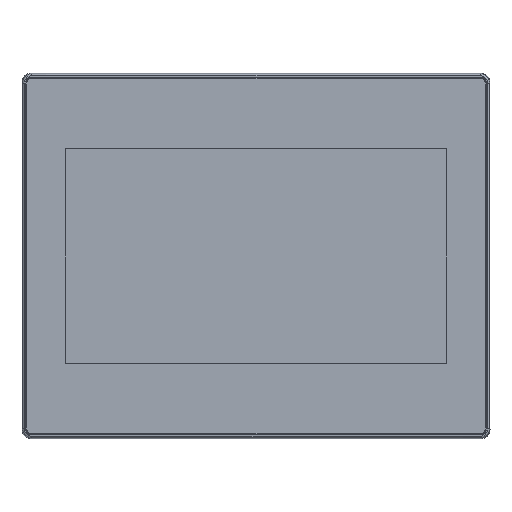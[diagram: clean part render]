
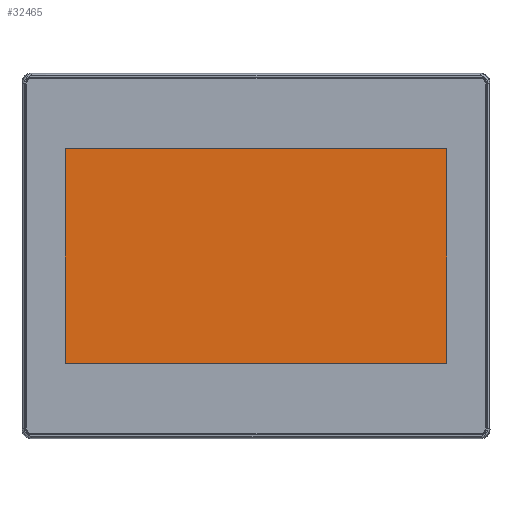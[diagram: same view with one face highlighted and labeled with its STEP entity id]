
A CAD part, front view. The second image highlights one B-rep face of the part: STEP entity #32465.
In plain terms, the highlighted planar face has unit normal (0, -1, 0).
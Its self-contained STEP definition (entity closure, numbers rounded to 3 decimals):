
#32409=CARTESIAN_POINT('',(-111.36,0.5,62.64));
#32410=VERTEX_POINT('',#32409);
#32418=CARTESIAN_POINT('',(-111.36,0.5,-62.64));
#32419=VERTEX_POINT('',#32418);
#32426=CARTESIAN_POINT('',(-111.36,0.5,-62.64));
#32427=DIRECTION('',(-0.,-0.,1.));
#32428=VECTOR('',#32427,125.28);
#32429=LINE('',#32426,#32428);
#32430=EDGE_CURVE('',#32419,#32410,#32429,.T.);
#32435=CARTESIAN_POINT('',(0.,0.5,0.));
#32436=DIRECTION('',(0.,-1.,0.));
#32437=DIRECTION('',(1.,0.,0.));
#32438=AXIS2_PLACEMENT_3D('',#32435,#32436,#32437);
#32439=PLANE('',#32438);
#32440=CARTESIAN_POINT('',(111.36,0.5,-62.64));
#32441=VERTEX_POINT('',#32440);
#32442=CARTESIAN_POINT('',(111.36,0.5,-62.64));
#32443=DIRECTION('',(-1.,-0.,0.));
#32444=VECTOR('',#32443,222.72);
#32445=LINE('',#32442,#32444);
#32446=EDGE_CURVE('',#32441,#32419,#32445,.T.);
#32447=ORIENTED_EDGE('',*,*,#32446,.F.);
#32448=CARTESIAN_POINT('',(111.36,0.5,62.64));
#32449=VERTEX_POINT('',#32448);
#32450=CARTESIAN_POINT('',(111.36,0.5,62.64));
#32451=DIRECTION('',(-0.,-0.,-1.));
#32452=VECTOR('',#32451,125.28);
#32453=LINE('',#32450,#32452);
#32454=EDGE_CURVE('',#32449,#32441,#32453,.T.);
#32455=ORIENTED_EDGE('',*,*,#32454,.F.);
#32456=CARTESIAN_POINT('',(-111.36,0.5,62.64));
#32457=DIRECTION('',(1.,-0.,-0.));
#32458=VECTOR('',#32457,222.72);
#32459=LINE('',#32456,#32458);
#32460=EDGE_CURVE('',#32410,#32449,#32459,.T.);
#32461=ORIENTED_EDGE('',*,*,#32460,.F.);
#32462=ORIENTED_EDGE('',*,*,#32430,.F.);
#32463=EDGE_LOOP('',(#32447,#32455,#32461,#32462));
#32464=FACE_BOUND('',#32463,.T.);
#32465=ADVANCED_FACE('',(#32464),#32439,.T.);
